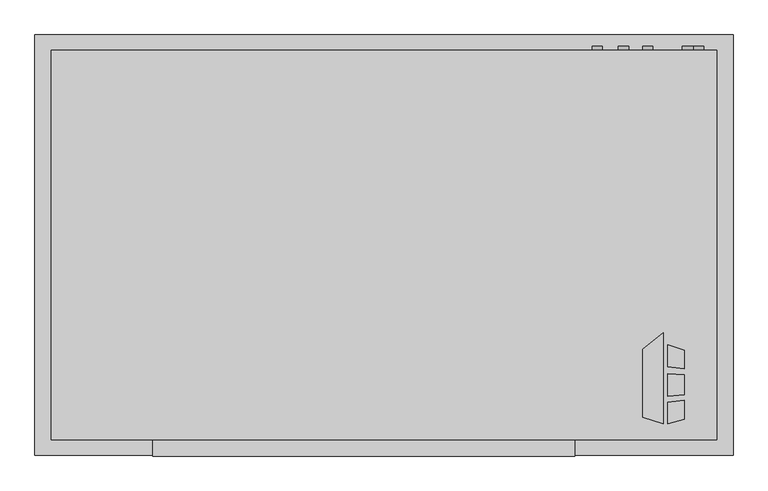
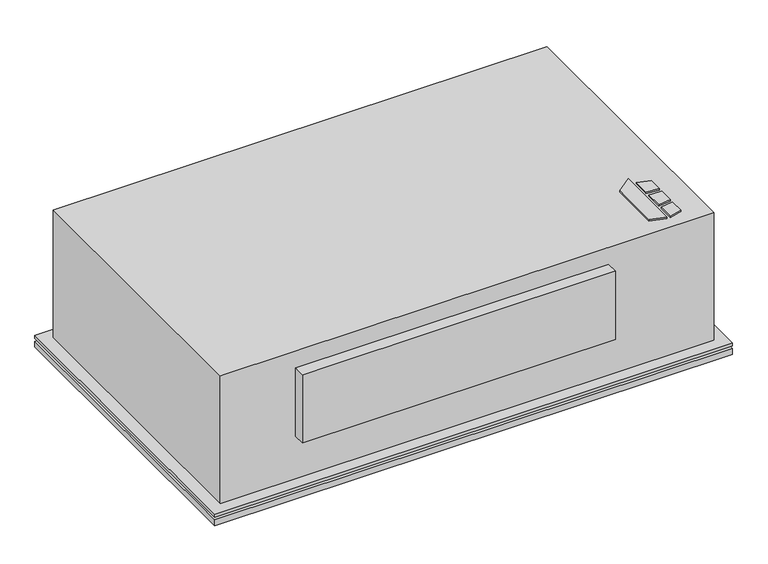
"""IFC4 building model written with IfcOpenShell, lengths in millimetres: proxy geometry, Horizontal_Telescoping_Fan_Coil_Unit_-_CBY_-_IEC_-_4-Pipe_RH_2022 : Size 04 - 277v/60Hz/1Ph - 4/1 Coil."""

from ifc_helpers import new_model, si_unit, point, frame, frame_2d, origin, origin_with_axes, place, context, project, spatial, polyline, circle_curve, trimmed, segment, composite_curve, outline, extrude, source, transform, mapped, element, save


def mechanical_equipment_340a6c1b(model_context):
    return source(origin(), model_context, "Body", "SweptSolid", [
        extrude(outline(polyline([(556.9019761, -401.0078476), (589.4602728, -375.5705184), (589.4602728, -517.525), (556.9019761, -507.3054201), (556.9019761, -401.0078476)])), origin_with_axes(), (0.0, 0.0, 1.0), 3.175),
        extrude(outline(polyline([(596.2186058, -428.879852), (596.2186058, -394.3999379), (622.3, -402.5865115), (622.3, -432.0822446), (596.2186058, -428.879852)])), origin_with_axes(), (0.0, 0.0, 1.0), 3.175),
        extrude(outline(polyline([(622.3, -510.5365115), (596.2186058, -517.525), (596.2186058, -484.3036996), (622.3, -480.7618564), (622.3, -510.5365115)])), origin_with_axes(), (0.0, 0.0, 1.0), 3.175),
        extrude(outline(polyline([(622.3, -441.1638277), (622.3, -472.413983), (596.2186058, -475.155248), (596.2186058, -439.2975378), (622.3, -441.1638277)])), origin_with_axes(), (0.0, 0.0, 1.0), 3.175),
        extrude(outline(composite_curve([segment(trimmed(circle_curve(frame_2d((-60.325, 485.775)), 7.9375), [point((-60.325, 493.7125))], [point((-60.325, 477.8375))], False, "CARTESIAN"), True, "CONTINUOUS"), segment(trimmed(circle_curve(frame_2d((-60.325, 485.775)), 7.9375), [point((-60.325, 477.8375))], [point((-60.325, 493.7125))], False, "CARTESIAN"), True, "CONTINUOUS")], self_intersect=False)), frame((0.0, 66.675, 0.0), z_axis=(0.0, 1.0, 0.0), x_axis=(0.0, 0.0, 1.0)), (0.0, 0.0, 1.0), 6.35),
        extrude(outline(composite_curve([segment(trimmed(circle_curve(frame_2d((-95.25, 527.05)), 7.9375), [point((-95.25, 534.9875))], [point((-95.25, 519.1125))], False, "CARTESIAN"), True, "CONTINUOUS"), segment(trimmed(circle_curve(frame_2d((-95.25, 527.05)), 7.9375), [point((-95.25, 519.1125))], [point((-95.25, 534.9875))], False, "CARTESIAN"), True, "CONTINUOUS")], self_intersect=False)), frame((0.0, 66.675, 0.0), z_axis=(0.0, 1.0, 0.0), x_axis=(0.0, 0.0, 1.0)), (0.0, 0.0, 1.0), 6.35),
        extrude(outline(composite_curve([segment(trimmed(circle_curve(frame_2d((-44.45, 565.15)), 7.9375), [point((-44.45, 573.0875))], [point((-44.45, 557.2125))], False, "CARTESIAN"), True, "CONTINUOUS"), segment(trimmed(circle_curve(frame_2d((-44.45, 565.15)), 7.9375), [point((-44.45, 557.2125))], [point((-44.45, 573.0875))], False, "CARTESIAN"), True, "CONTINUOUS")], self_intersect=False)), frame((0.0, 66.675, 0.0), z_axis=(0.0, 1.0, 0.0), x_axis=(0.0, 0.0, 1.0)), (0.0, 0.0, 1.0), 6.35),
        extrude(outline(composite_curve([segment(trimmed(circle_curve(frame_2d((-85.725, 644.525)), 7.9375), [point((-85.725, 652.4625))], [point((-85.725, 636.5875))], False, "CARTESIAN"), True, "CONTINUOUS"), segment(trimmed(circle_curve(frame_2d((-85.725, 644.525)), 7.9375), [point((-85.725, 636.5875))], [point((-85.725, 652.4625))], False, "CARTESIAN"), True, "CONTINUOUS")], self_intersect=False)), frame((0.0, 66.675, 0.0), z_axis=(0.0, 1.0, 0.0), x_axis=(0.0, 0.0, 1.0)), (0.0, 0.0, 1.0), 6.35),
        extrude(outline(composite_curve([segment(trimmed(circle_curve(frame_2d((-260.35, 628.65)), 9.525), [point((-260.35, 638.175))], [point((-260.35, 619.125))], False, "CARTESIAN"), True, "CONTINUOUS"), segment(trimmed(circle_curve(frame_2d((-260.35, 628.65)), 9.525), [point((-260.35, 619.125))], [point((-260.35, 638.175))], False, "CARTESIAN"), True, "CONTINUOUS")], self_intersect=False)), frame((0.0, 66.675, 0.0), z_axis=(0.0, 1.0, 0.0), x_axis=(0.0, 0.0, 1.0)), (0.0, 0.0, 1.0), 6.35),
        extrude(outline(polyline([(698.5, 90.4875), (698.5, -566.7375), (-393.7, -566.7375), (-393.7, 90.4875), (698.5, 90.4875)])), frame((0.0, 0.0, -311.15), z_axis=(0.0, 0.0, 1.0), x_axis=(1.0, 0.0, 0.0)), (0.0, 0.0, 1.0), 12.7),
        extrude(outline(polyline([(698.5, 90.4875), (698.5, -566.7375), (-393.7, -566.7375), (-393.7, 90.4875), (698.5, 90.4875)])), frame((0.0, 0.0, -292.1), z_axis=(0.0, 0.0, 1.0), x_axis=(1.0, 0.0, 0.0)), (0.0, 0.0, 1.0), 6.35),
        extrude(outline(polyline([(673.1, 65.0875), (673.1, -541.3375), (-368.3, -541.3375), (-368.3, 65.0875), (673.1, 65.0875)])), frame((0.0, 0.0, -298.45), z_axis=(0.0, 0.0, 1.0), x_axis=(1.0, 0.0, 0.0)), (0.0, 0.0, 1.0), 6.35),
        extrude(outline(polyline([(450.85, -568.325), (-209.55, -568.325), (-209.55, -542.925), (450.85, -542.925), (450.85, -568.325)])), frame((0.0, 0.0, -190.5), z_axis=(0.0, 0.0, 1.0), x_axis=(1.0, 0.0, 0.0)), (0.0, 0.0, 1.0), 152.4),
        extrude(outline(polyline([(-368.3, 66.675), (673.1, 66.675), (673.1, -542.925), (-368.3, -542.925), (-368.3, 66.675)])), frame((0.0, 0.0, -285.75), z_axis=(0.0, 0.0, 1.0), x_axis=(1.0, 0.0, 0.0)), (0.0, 0.0, 1.0), 285.75),
        extrude(outline(polyline([(571.5, -9.525), (571.5, -263.525), (-266.7, -263.525), (-266.7, -9.525), (571.5, -9.525)])), frame((0.0, 0.0, -317.5), z_axis=(0.0, 0.0, 1.0), x_axis=(1.0, 0.0, 0.0)), (0.0, 0.0, 1.0), 6.35),
    ])


if __name__ == "__main__":
    model = new_model("IFC4")
    model_context = context("Model", 3, world=origin())
    ifc_project = project(units=[si_unit("LENGTHUNIT", "METRE", prefix="MILLI")], contexts=[model_context])
    site = spatial("IfcSite", under=ifc_project)
    building = spatial("IfcBuilding", under=site)
    placement = place(None, origin())
    mechanical_equipment_shape = mechanical_equipment_340a6c1b(model_context)
    element("IfcBuildingElementProxy", 1, Name="Horizontal_Telescoping_Fan_Coil_Unit_-_CBY_-_IEC_-_4-Pipe_RH_2022 : Size 04 - 277v/60Hz/1Ph - 4/1 Coil", ObjectType="Horizontal_Telescoping_Fan_Coil_Unit_-_CBY_-_IEC_-_4-Pipe_RH_2022 : Size 04 - 277v/60Hz/1Ph - 4/1 Coil", at=placement, inside=building, context=model_context, shape_type="MappedRepresentation", body=[
        mapped(mechanical_equipment_shape, transform((0.0, 0.0, 0.0), x_axis=(1.0, 0.0, 0.0), y_axis=(0.0, 1.0, 0.0), z_axis=(0.0, 0.0, 1.0))),
    ])
    save(model, "model.ifc")
